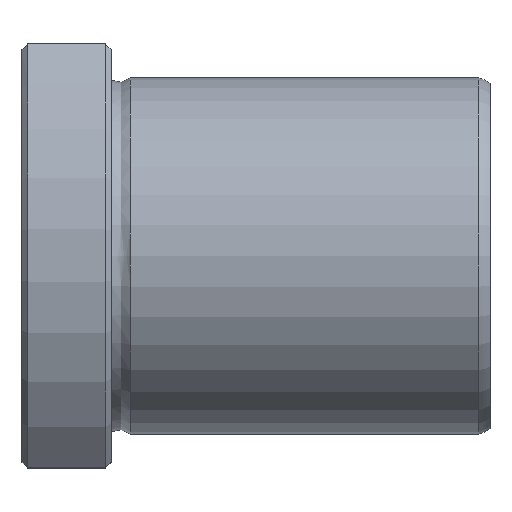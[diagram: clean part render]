
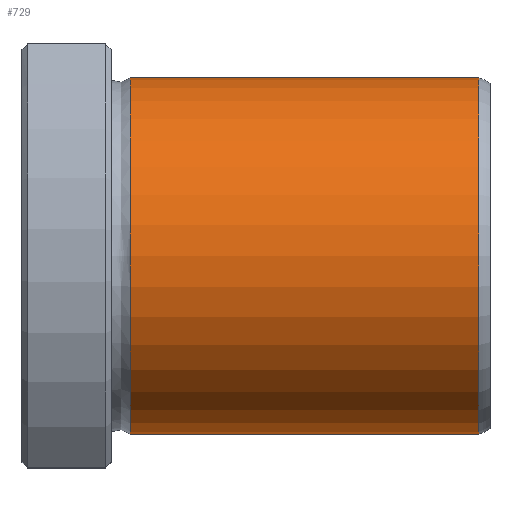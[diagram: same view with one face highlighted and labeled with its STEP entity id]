
A CAD part, top view. The second image highlights one B-rep face of the part: STEP entity #729.
In plain terms, the highlighted cylindrical face has radius 16 mm (diameter 32 mm), a full revolution.
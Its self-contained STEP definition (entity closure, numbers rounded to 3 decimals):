
#695=CARTESIAN_POINT('',(40.999,0.0,16.));
#696=VERTEX_POINT('',#695);
#697=CARTESIAN_POINT('',(40.999,0.0,0.0));
#698=DIRECTION('',(-1.0,0.0,0.0));
#699=DIRECTION('',(0.0,0.0,1.0));
#700=AXIS2_PLACEMENT_3D('',#697,#698,#699);
#701=CIRCLE('',#700,16.);
#702=EDGE_CURVE('',#696,#696,#701,.T.);
#710=CARTESIAN_POINT('',(25.359,0.0,0.0));
#711=DIRECTION('',(-1.0,0.0,0.0));
#712=DIRECTION('',(0.0,0.0,1.0));
#713=AXIS2_PLACEMENT_3D('',#710,#711,#712);
#714=CYLINDRICAL_SURFACE('',#713,16.);
#715=CARTESIAN_POINT('',(9.72,0.0,16.));
#716=VERTEX_POINT('',#715);
#717=CARTESIAN_POINT('',(9.72,0.0,0.0));
#718=DIRECTION('',(-1.0,0.0,0.0));
#719=DIRECTION('',(0.0,0.0,1.0));
#720=AXIS2_PLACEMENT_3D('',#717,#718,#719);
#721=CIRCLE('',#720,16.);
#722=EDGE_CURVE('',#716,#716,#721,.T.);
#723=ORIENTED_EDGE('',*,*,#722,.F.);
#724=EDGE_LOOP('',(#723));
#725=FACE_OUTER_BOUND('',#724,.T.);
#726=ORIENTED_EDGE('',*,*,#702,.T.);
#727=EDGE_LOOP('',(#726));
#728=FACE_BOUND('',#727,.T.);
#729=ADVANCED_FACE('',(#725,#728),#714,.T.);
